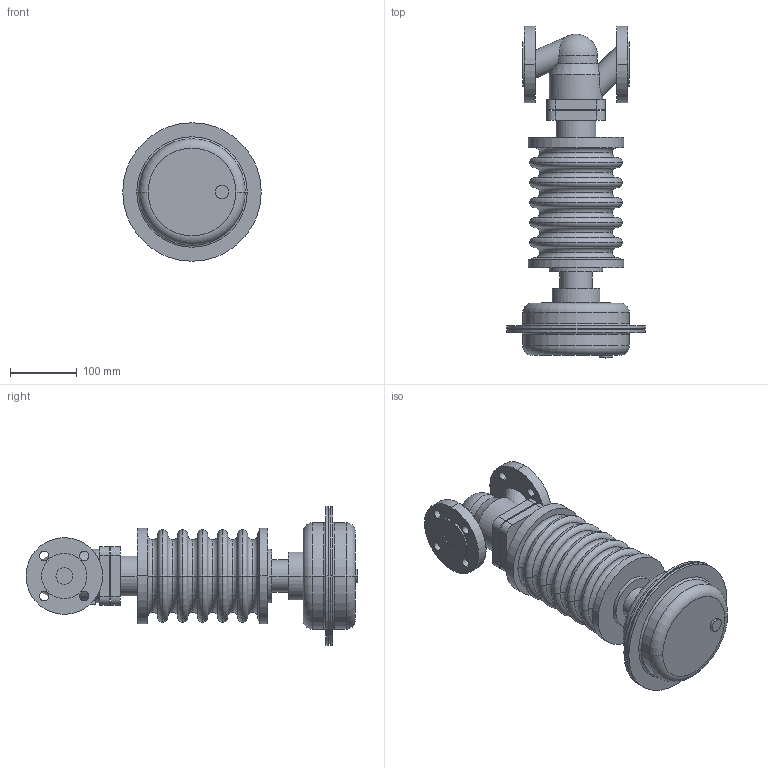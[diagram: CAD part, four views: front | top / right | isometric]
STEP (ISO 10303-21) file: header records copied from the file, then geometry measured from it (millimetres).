
FILE_DESCRIPTION(('OneSpaceDesigner STEP Export'),'2;1');
FILE_NAME('c000000550.stp','2006-08-30T 8:46:00',(''),(''),'OneSpace Designer STEP processor for AP203 (Solid Model)','OneSpace Designer 13.20A 18-Aug-2005 (C) CoCreate Software GmbH','');
FILE_SCHEMA(('CONFIG_CONTROL_DESIGN'));
Length unit declared in the file: millimetre
Products named in the file (1): 2
Bounding box: 208 x 498.5 x 208 mm (x, y, z)
Volume: 5395339.4 mm3; surface area: 375214 mm2
Topology: 1 solids, 1 shells, 176 faces, 405 edges, 254 vertices
Faces by surface type: cylinder 70, torus 54, plane 48, cone 2, sphere 2
Entity records: 4497 total; most frequent: CARTESIAN_POINT 868, ORIENTED_EDGE 806, DIRECTION 665, EDGE_CURVE 403, AXIS2_PLACEMENT_3D 268, VERTEX_POINT 254, EDGE_LOOP 217, FACE_OUTER_BOUND 176
